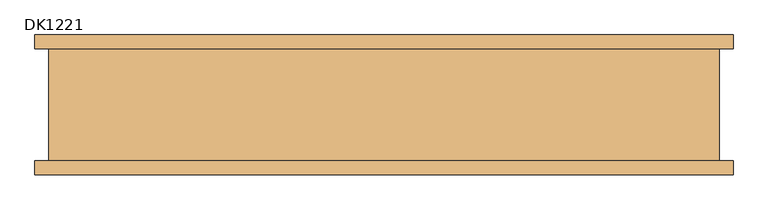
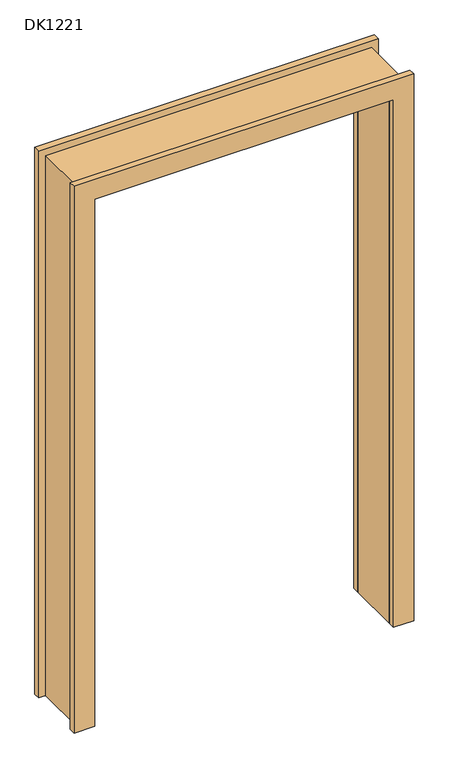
"""IFC4 building model written with IfcOpenShell, lengths in millimetres: door geometry, 门洞 : DK1221."""

from ifc_helpers import new_model, si_unit, frame, origin, place, context, project, spatial, polyline, outline, extrude, source, transform, mapped, element, save


def dk1221_57ae5517(model_context):
    return source(origin(), model_context, "Body", "SweptSolid", [
        extrude(outline(polyline([(2100.0, -600.0), (0.0, -600.0), (0.0, -550.0), (2050.0, -550.0), (2050.0, 550.0), (0.0, 550.0), (0.0, 600.0), (2100.0, 600.0), (2100.0, -600.0)])), frame((0.0, -100.0, 0.0), z_axis=(0.0, 1.0, 0.0), x_axis=(0.0, 0.0, 1.0)), (0.0, 0.0, 1.0), 200.0),
        extrude(outline(polyline([(2125.0, -625.0), (0.0, -625.0), (0.0, -550.0), (2050.0, -550.0), (2050.0, 550.0), (0.0, 550.0), (0.0, 625.0), (2125.0, 625.0), (2125.0, -625.0)])), frame((0.0, 100.0, 0.0), z_axis=(0.0, 1.0, 0.0), x_axis=(0.0, 0.0, 1.0)), (0.0, 0.0, 1.0), 25.0),
        extrude(outline(polyline([(2125.0, -625.0), (0.0, -625.0), (0.0, -550.0), (2050.0, -550.0), (2050.0, 550.0), (0.0, 550.0), (0.0, 625.0), (2125.0, 625.0), (2125.0, -625.0)])), frame((0.0, -125.0, 0.0), z_axis=(0.0, 1.0, 0.0), x_axis=(0.0, 0.0, 1.0)), (0.0, 0.0, 1.0), 25.0),
    ])


if __name__ == "__main__":
    model = new_model("IFC4")
    model_context = context("Model", 3, world=origin())
    ifc_project = project(units=[si_unit("LENGTHUNIT", "METRE", prefix="MILLI")], contexts=[model_context])
    site = spatial("IfcSite", under=ifc_project)
    building = spatial("IfcBuilding", under=site)
    placement = place(None, origin())
    dk1221_shape = dk1221_57ae5517(model_context)
    element("IfcDoor", 1, ObjectType="门洞 : DK1221", at=placement, inside=building, context=model_context, shape_type="MappedRepresentation", body=[
        mapped(dk1221_shape, transform((0.0, 0.0, 0.0), x_axis=(1.0, 0.0, 0.0), y_axis=(0.0, 1.0, 0.0), z_axis=(0.0, 0.0, 1.0))),
    ])
    save(model, "model.ifc")
